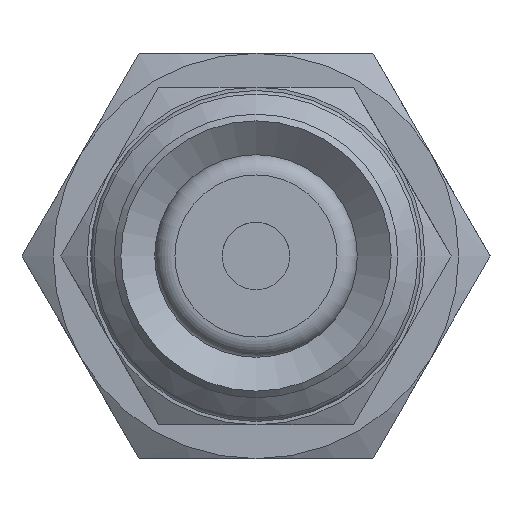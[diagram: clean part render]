
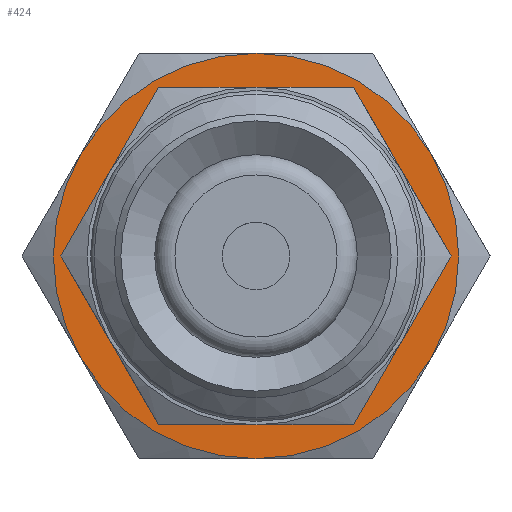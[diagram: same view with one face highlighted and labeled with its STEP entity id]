
A CAD part, front view. The second image highlights one B-rep face of the part: STEP entity #424.
In plain terms, the highlighted planar face has unit normal (0, -1, 0) as drawn and (-1, 0, 0) by its records, which use the part's own axes.
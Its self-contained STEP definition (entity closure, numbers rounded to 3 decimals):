
#424=ADVANCED_FACE('',(#572,#573),#574,.F.);
#572=FACE_BOUND('',#850,.T.);
#573=FACE_OUTER_BOUND('',#851,.T.);
#574=PLANE('',#852);
#850=EDGE_LOOP('',(#1244));
#851=EDGE_LOOP('',(#1245,#1246,#1247,#1248,#1249,#1250));
#852=AXIS2_PLACEMENT_3D('',#1251,#1252,#1253);
#1244=ORIENTED_EDGE('',*,*,#1878,.T.);
#1245=ORIENTED_EDGE('',*,*,#1841,.F.);
#1246=ORIENTED_EDGE('',*,*,#1858,.F.);
#1247=ORIENTED_EDGE('',*,*,#1870,.F.);
#1248=ORIENTED_EDGE('',*,*,#1879,.F.);
#1249=ORIENTED_EDGE('',*,*,#1877,.F.);
#1250=ORIENTED_EDGE('',*,*,#1862,.F.);
#1251=CARTESIAN_POINT('',(0.,0.0,0.0));
#1252=DIRECTION('',(1.0,0.0,0.0));
#1253=DIRECTION('',(0.0,1.0,0.0));
#1841=EDGE_CURVE('',#2063,#2065,#2066,.T.);
#1858=EDGE_CURVE('',#2092,#2063,#2095,.T.);
#1862=EDGE_CURVE('',#2065,#2101,#2102,.T.);
#1870=EDGE_CURVE('',#2114,#2092,#2115,.T.);
#1877=EDGE_CURVE('',#2101,#2122,#2124,.T.);
#1878=EDGE_CURVE('',#2125,#2125,#2126,.T.);
#1879=EDGE_CURVE('',#2122,#2114,#2127,.T.);
#2063=VERTEX_POINT('',#2431);
#2065=VERTEX_POINT('',#2443);
#2066=CIRCLE('',#2444,6.0);
#2092=VERTEX_POINT('',#2554);
#2095=CIRCLE('',#2577,6.0);
#2101=VERTEX_POINT('',#2593);
#2102=CIRCLE('',#2594,6.0);
#2114=VERTEX_POINT('',#2656);
#2115=CIRCLE('',#2657,6.0);
#2122=VERTEX_POINT('',#2695);
#2124=CIRCLE('',#2707,6.0);
#2125=VERTEX_POINT('',#2708);
#2126=CIRCLE('',#2709,4.0);
#2127=CIRCLE('',#2710,6.0);
#2431=CARTESIAN_POINT('',(0.,5.196,-3.0));
#2443=CARTESIAN_POINT('',(0.,5.196,3.0));
#2444=AXIS2_PLACEMENT_3D('',#3178,#3179,#3180);
#2554=CARTESIAN_POINT('',(0.,0.0,-6.0));
#2577=AXIS2_PLACEMENT_3D('',#3191,#3192,#3193);
#2593=CARTESIAN_POINT('',(0.,0.0,6.0));
#2594=AXIS2_PLACEMENT_3D('',#3200,#3201,#3202);
#2656=CARTESIAN_POINT('',(0.,-5.196,-3.0));
#2657=AXIS2_PLACEMENT_3D('',#3209,#3210,#3211);
#2695=CARTESIAN_POINT('',(0.,-5.196,3.0));
#2707=AXIS2_PLACEMENT_3D('',#3216,#3217,#3218);
#2708=CARTESIAN_POINT('',(0.,0.0,-4.0));
#2709=AXIS2_PLACEMENT_3D('',#3219,#3220,#3221);
#2710=AXIS2_PLACEMENT_3D('',#3222,#3223,#3224);
#3178=CARTESIAN_POINT('',(0.,0.0,0.0));
#3179=DIRECTION('',(1.0,0.0,0.0));
#3180=DIRECTION('',(0.0,0.0,-1.0));
#3191=CARTESIAN_POINT('',(0.,0.0,0.0));
#3192=DIRECTION('',(1.0,0.0,0.0));
#3193=DIRECTION('',(0.0,0.0,-1.0));
#3200=CARTESIAN_POINT('',(0.,0.0,0.0));
#3201=DIRECTION('',(1.0,0.0,0.0));
#3202=DIRECTION('',(0.0,0.0,-1.0));
#3209=CARTESIAN_POINT('',(0.,0.0,0.0));
#3210=DIRECTION('',(1.0,0.0,0.0));
#3211=DIRECTION('',(0.0,0.0,-1.0));
#3216=CARTESIAN_POINT('',(0.,0.0,0.0));
#3217=DIRECTION('',(1.0,0.0,0.0));
#3218=DIRECTION('',(0.0,0.0,-1.0));
#3219=CARTESIAN_POINT('',(0.,0.0,0.0));
#3220=DIRECTION('',(1.0,0.0,0.0));
#3221=DIRECTION('',(0.0,0.0,-1.0));
#3222=CARTESIAN_POINT('',(0.,0.0,0.0));
#3223=DIRECTION('',(1.0,0.0,0.0));
#3224=DIRECTION('',(0.0,0.0,-1.0));
